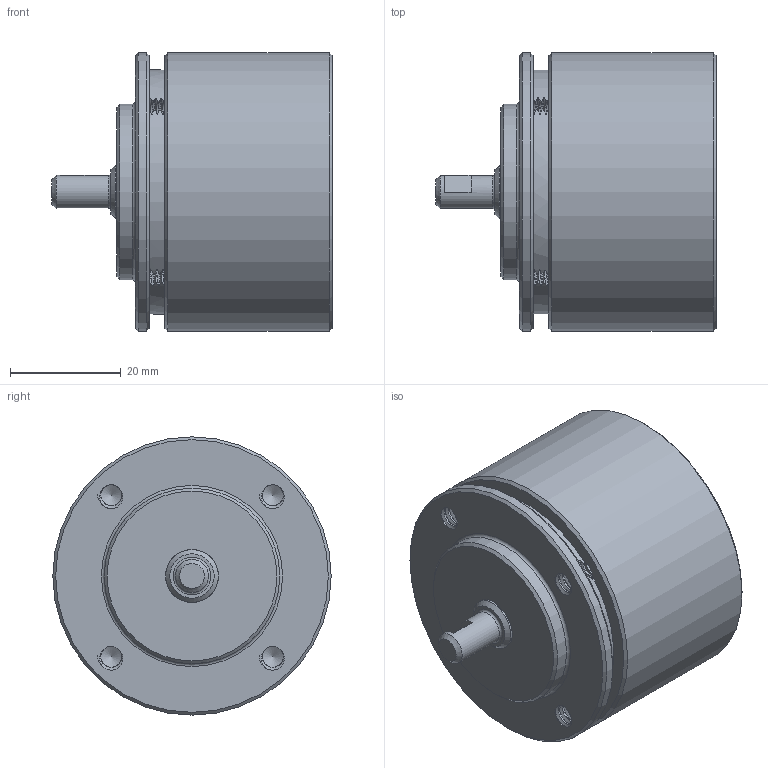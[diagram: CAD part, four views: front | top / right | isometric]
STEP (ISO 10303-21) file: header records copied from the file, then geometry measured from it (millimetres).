
FILE_DESCRIPTION(/* description */ (''),/* implementation_level */ '2;1');
FILE_NAME(/* name */ 'J150-CUST-ASSY-WRAP.step',/* time_stamp */ '2024-06-17T08:01:19-05:00',/* author */ (''),/* organization */ (''),/* preprocessor_version */ 'ST-DEVELOPER v20',/* originating_system */ 'Autodesk Translation Framework v13.14.0.145',/* authorisation */ '');
FILE_SCHEMA (('AUTOMOTIVE_DESIGN { 1 0 10303 214 3 1 1 }'));
Length unit declared in the file: inch
Products named in the file (1): J150-CUST-ASSY-WRAP
Bounding box: 50.62 x 50.29 x 50.29 mm (x, y, z)
Volume: 64707.3 mm3; surface area: 17328.8 mm2
Topology: 1 solids, 1 shells, 409 faces, 1088 edges, 708 vertices
Faces by surface type: plane 233, cylinder 125, bspline 28, cone 19, torus 4
Full cylindrical faces by diameter (mm): 1.6 x4, 2.5 x2, 3.823 x14, 4.826 x12, 5.982 x1, 9.515 x1, 9.525 x1, 9.576 x1, 14.549 x1, 17.201 x1, 19.05 x1, 31.725 x1, 45.06 x1, 45.466 x1, 50.292 x2
Entity records: 16585 total; most frequent: CARTESIAN_POINT 6715, ORIENTED_EDGE 2168, DIRECTION 1825, EDGE_CURVE 1084, VERTEX_POINT 708, LINE 671, VECTOR 671, AXIS2_PLACEMENT_3D 577
